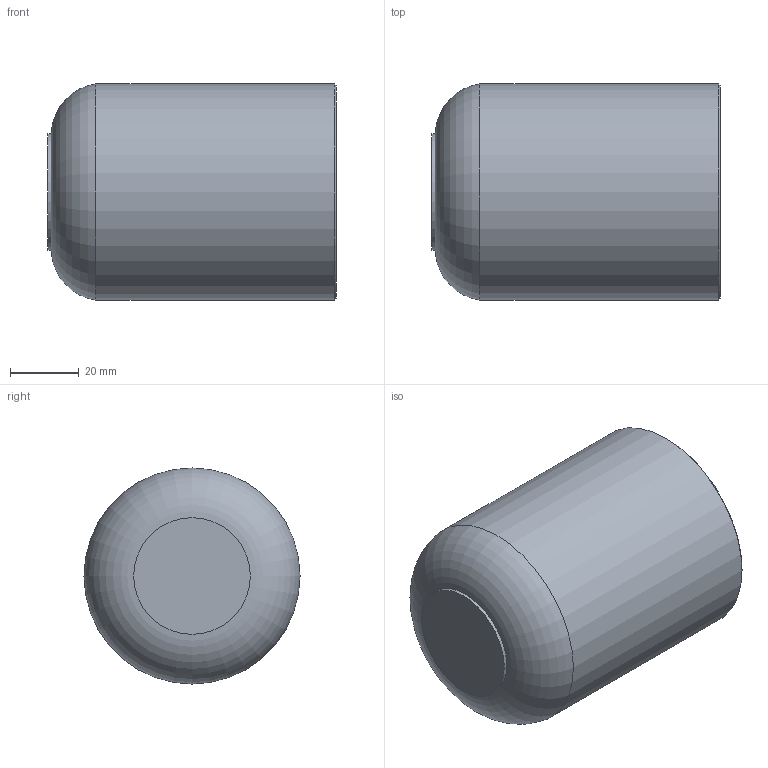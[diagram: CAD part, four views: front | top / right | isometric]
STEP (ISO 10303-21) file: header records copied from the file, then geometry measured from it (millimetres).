
FILE_DESCRIPTION(/* description */ ('Unknown'),/* implementation_level */ '2;1');
FILE_NAME(/* name */ 'CAP063H',/* time_stamp */ '2022-04-01T11:18:52+02:00',/* author */ ('Unknown'),/* organization */ ('Unknown'),/* preprocessor_version */ 'ST-DEVELOPER v18.1',/* originating_system */ 'Solid Edge',/* authorisation */ 'Unknown');
FILE_SCHEMA (('AUTOMOTIVE_DESIGN {1 0 10303 214 3 1 1}'));
Length unit declared in the file: millimetre
Products named in the file (1): CAP063H
Bounding box: 84 x 63 x 63 mm (x, y, z)
Volume: 131773.3 mm3; surface area: 31423.9 mm2
Topology: 1 solids, 1 shells, 9 faces, 15 edges, 9 vertices
Faces by surface type: plane 3, cylinder 3, torus 2, cone 1
Full cylindrical faces by diameter (mm): 34 x1, 45.8 x1, 63 x1
Entity records: 204 total; most frequent: DIRECTION 36, CARTESIAN_POINT 26, AXIS2_PLACEMENT_3D 18, ORIENTED_EDGE 16, EDGE_LOOP 16, FACE_BOUND 16, ADVANCED_FACE 9, EDGE_CURVE 8
